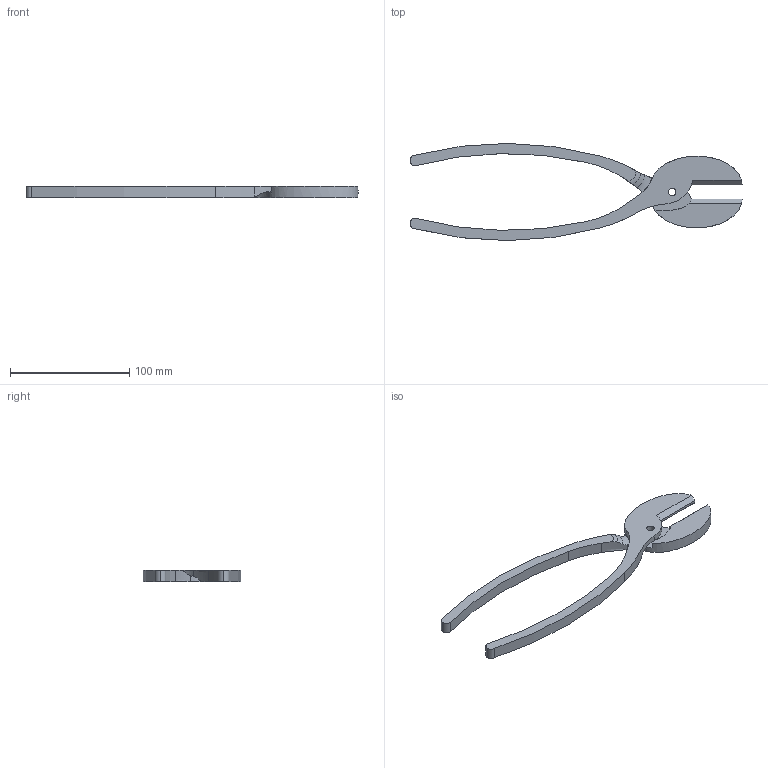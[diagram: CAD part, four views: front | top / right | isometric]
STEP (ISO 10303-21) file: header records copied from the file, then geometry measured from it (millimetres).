
FILE_DESCRIPTION((''),'2;1');
FILE_NAME('C:\Users\stefanj\Documents\Autodesk Simulation\Tutorials\2013 Scrub\Vice Grips.step','2012-03-06T10:25:34',('stefanj'),(''),'Autodesk Inventor 2012','Autodesk Inventor 2012','');
FILE_SCHEMA(('AUTOMOTIVE_DESIGN { 1 0 10303 214 1 1 1 1 }'));
Length unit declared in the file: inch
Products named in the file (3): Assembly1; Part2; Part4
Assembly tree (2 placements, depth 2):
  Assembly1
    Part2
    Part4
Bounding box: 278.64 x 81.59 x 9.53 mm (x, y, z)
Volume: 61926.5 mm3; surface area: 25955.1 mm2
Topology: 2 solids, 2 shells, 50 faces, 140 edges, 94 vertices
Faces by surface type: cylinder 20, plane 14, bspline 10, torus 4, cone 2
Entity records: 8470 total; most frequent: CARTESIAN_POINT 7151, ORIENTED_EDGE 280, DIRECTION 244, EDGE_CURVE 140, AXIS2_PLACEMENT_3D 107, VERTEX_POINT 94, EDGE_LOOP 54, FACE_OUTER_BOUND 50
